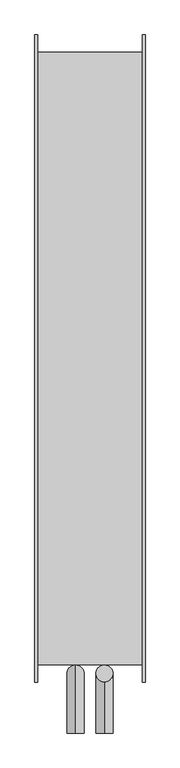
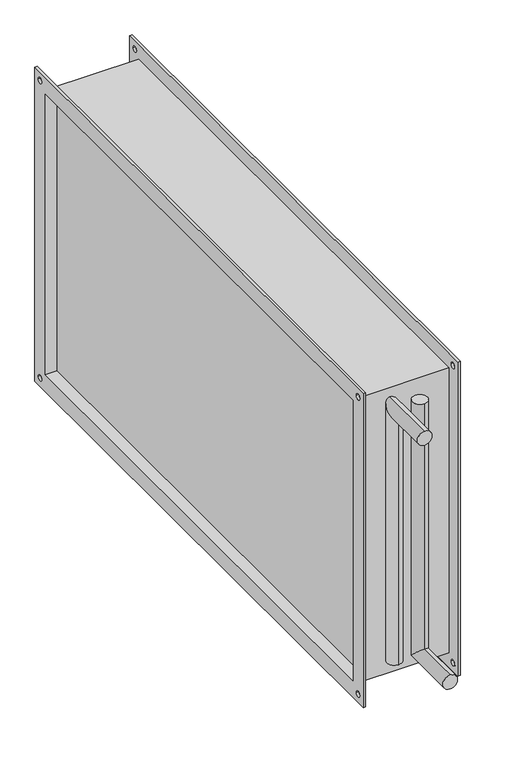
"""IFC4 building model written with IfcOpenShell, lengths in millimetres: proxy geometry, СВ_ВоздухонагревательВодяной_КанальныйПрямоугольный_200-1000_SPH-W : SPH-W-900x500/2."""

from ifc_helpers import new_model, si_unit, frame, origin, place, context, project, spatial, polyline, circle_curve, ellipse_curve, source, transform, mapped, element, save
from ifc_brep_helpers import plane_surface, cylinder_surface, revolved_surface, advanced_brep


def mechanical_equipment_1263eb8d(model_context):
    return source(origin(), model_context, "Body", "AdvancedBrep", [
        advanced_brep(
        [(21.5, -454.0, 225.0), (21.5, -479.0, 225.0), (21.5, -454.0, -237.5), (21.5, -479.0, -212.5), (21.5, -555.0, -237.5), (21.5, -555.0, -212.5)],
        [
            (0, 1, circle_curve(frame((21.5, -466.5, 225.0), z_axis=(0.0, 0.0, 1.0), x_axis=(0.0, -1.0, 0.0)), 12.5)),
            (1, 0, circle_curve(frame((21.5, -466.5, 225.0), z_axis=(0.0, 0.0, 1.0), x_axis=(0.0, -1.0, 0.0)), 12.5)),
            (0, 2),
            (2, 3, ellipse_curve(frame((21.5, -466.5, -225.0), z_axis=(0.0, 0.7071067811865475, 0.7071067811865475), x_axis=(0.0, -0.7071067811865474, 0.7071067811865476)), 17.6776695, 12.5)),
            (3, 1),
            (3, 2, ellipse_curve(frame((21.5, -466.5, -225.0), z_axis=(0.0, 0.7071067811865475, 0.7071067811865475), x_axis=(0.0, -0.7071067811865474, 0.7071067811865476)), 17.6776695, 12.5)),
            (4, 5, circle_curve(frame((21.5, -555.0, -225.0), z_axis=(0.0, -1.0, 0.0), x_axis=(0.0, 0.0, 1.0)), 12.5)),
            (5, 4, circle_curve(frame((21.5, -555.0, -225.0), z_axis=(0.0, -1.0, 0.0), x_axis=(0.0, 0.0, 1.0)), 12.5)),
            (2, 4),
            (5, 3),
        ],
        [
            plane_surface(frame((21.5, -466.5, 225.0), z_axis=(0.0, 0.0, 1.0), x_axis=(-1.0, 0.0, 0.0))),
            cylinder_surface(frame((21.5, -466.5, 225.0), z_axis=(0.0, 0.0, 1.0), x_axis=(0.0, -1.0, 0.0)), 12.5),
            plane_surface(frame((21.5, -555.0, -225.0), z_axis=(0.0, -1.0, 0.0), x_axis=(-1.0, 0.0, 0.0))),
            cylinder_surface(frame((21.5, -466.5, -225.0), z_axis=(0.0, 1.0, 0.0), x_axis=(0.0, 0.0, 1.0)), 12.5),
        ],
        [
            (0, [[1, 2]]),
            (1, [[-1, 3, 4, 5]]),
            (1, [[-2, -5, 6, -3]]),
            (2, [[7, 8]]),
            (3, [[-4, 9, -8, 10]]),
            (3, [[-6, -10, -7, -9]]),
        ],
    ),
        advanced_brep(
        [(-21.5, -454.0, -225.0), (-21.5, -479.0, -225.0), (-21.5, -454.0, 237.5), (-21.5, -479.0, 212.5), (-21.5, -555.0, 237.5), (-21.5, -555.0, 212.5)],
        [
            (0, 1, circle_curve(frame((-21.5, -466.5, -225.0), z_axis=(0.0, 0.0, -1.0), x_axis=(0.0, -1.0, 0.0)), 12.5)),
            (1, 0, circle_curve(frame((-21.5, -466.5, -225.0), z_axis=(0.0, 0.0, -1.0), x_axis=(0.0, -1.0, 0.0)), 12.5)),
            (0, 2),
            (2, 3, ellipse_curve(frame((-21.5, -466.5, 225.0), z_axis=(0.0, 0.7071067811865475, -0.7071067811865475), x_axis=(0.0, -0.7071067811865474, -0.7071067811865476)), 17.6776695, 12.5)),
            (3, 1),
            (3, 2, ellipse_curve(frame((-21.5, -466.5, 225.0), z_axis=(0.0, 0.7071067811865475, -0.7071067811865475), x_axis=(0.0, -0.7071067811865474, -0.7071067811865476)), 17.6776695, 12.5)),
            (4, 5, circle_curve(frame((-21.5, -555.0, 225.0), z_axis=(0.0, -1.0, 0.0), x_axis=(0.0, 0.0, -1.0)), 12.5)),
            (5, 4, circle_curve(frame((-21.5, -555.0, 225.0), z_axis=(0.0, -1.0, 0.0), x_axis=(0.0, 0.0, -1.0)), 12.5)),
            (2, 4),
            (5, 3),
        ],
        [
            plane_surface(frame((-21.5, -466.5, -225.0), z_axis=(0.0, 0.0, -1.0), x_axis=(1.0, 0.0, 0.0))),
            cylinder_surface(frame((-21.5, -466.5, -225.0), z_axis=(0.0, 0.0, -1.0), x_axis=(0.0, -1.0, 0.0)), 12.5),
            plane_surface(frame((-21.5, -555.0, 225.0), z_axis=(0.0, -1.0, 0.0), x_axis=(1.0, 0.0, 0.0))),
            cylinder_surface(frame((-21.5, -466.5, 225.0), z_axis=(0.0, 1.0, 0.0), x_axis=(0.0, 0.0, -1.0)), 12.5),
        ],
        [
            (0, [[1, 2]]),
            (1, [[-1, 3, 4, 5]]),
            (1, [[-2, -5, 6, -3]]),
            (2, [[7, 8]]),
            (3, [[-4, 9, -8, 10]]),
            (3, [[-6, -10, -7, -9]]),
        ],
    ),
        advanced_brep(
        [(-78.0, -454.0, 254.0), (-78.0, -454.0, -254.0), (78.0, -454.0, -254.0), (78.0, -454.0, 254.0), (-78.0, 454.0, -254.0), (78.0, 454.0, -254.0), (-78.0, 454.0, 254.0), (78.0, 454.0, 254.0), (62.0, 450.0, -250.0), (62.0, 450.0, 250.0), (62.0, -450.0, 250.0), (62.0, -450.0, -250.0), (-62.0, -450.0, 250.0), (-62.0, 450.0, 250.0), (-62.0, 450.0, -250.0), (-62.0, -450.0, -250.0), (-82.0, -480.0, 280.0), (-82.0, 480.0, 280.0), (-82.0, 480.0, -280.0), (-82.0, -480.0, -280.0), (-82.0, -450.0, 250.0), (-82.0, -450.0, -250.0), (-82.0, 450.0, -250.0), (-82.0, 450.0, 250.0), (-82.0, 460.0, 265.0), (-82.0, 470.0, 265.0), (-82.0, -470.0, 265.0), (-82.0, -460.0, 265.0), (-82.0, -470.0, -265.0), (-82.0, -460.0, -265.0), (-82.0, 460.0, -265.0), (-82.0, 470.0, -265.0), (-78.0, -480.0, 280.0), (-78.0, -480.0, -280.0), (-78.0, 480.0, -280.0), (-78.0, 480.0, 280.0), (-78.0, 470.0, 265.0), (-78.0, 460.0, 265.0), (-78.0, -460.0, 265.0), (-78.0, -470.0, 265.0), (-78.0, -460.0, -265.0), (-78.0, -470.0, -265.0), (-78.0, 470.0, -265.0), (-78.0, 460.0, -265.0), (78.0, 480.0, 280.0), (78.0, 480.0, -280.0), (78.0, -480.0, -280.0), (78.0, -480.0, 280.0), (78.0, 460.0, 265.0), (78.0, 470.0, 265.0), (78.0, -470.0, 265.0), (78.0, -460.0, 265.0), (78.0, -470.0, -265.0), (78.0, -460.0, -265.0), (78.0, 460.0, -265.0), (78.0, 470.0, -265.0), (82.0, 480.0, 280.0), (82.0, -480.0, 280.0), (82.0, -480.0, -280.0), (82.0, 480.0, -280.0), (82.0, 450.0, 250.0), (82.0, 450.0, -250.0), (82.0, -450.0, -250.0), (82.0, -450.0, 250.0), (82.0, 470.0, 265.0), (82.0, 460.0, 265.0), (82.0, -460.0, 265.0), (82.0, -470.0, 265.0), (82.0, -460.0, -265.0), (82.0, -470.0, -265.0), (82.0, 470.0, -265.0), (82.0, 460.0, -265.0)],
        [
            (0, 1),
            (1, 2),
            (2, 3),
            (3, 0),
            (1, 4),
            (4, 5),
            (5, 2),
            (4, 6),
            (6, 7),
            (7, 5),
            (6, 0),
            (3, 7),
            (8, 9),
            (9, 10),
            (10, 11),
            (11, 8),
            (12, 13),
            (13, 14),
            (14, 15),
            (15, 12),
            (16, 17),
            (17, 18),
            (18, 19),
            (19, 16),
            (20, 21),
            (21, 22),
            (22, 23),
            (23, 20),
            (24, 25, circle_curve(frame((-82.0, 465.0, 265.0), z_axis=(1.0, 0.0, 0.0), x_axis=(0.0, -1.0, 0.0)), 5.0)),
            (25, 24, circle_curve(frame((-82.0, 465.0, 265.0), z_axis=(1.0, 0.0, 0.0), x_axis=(0.0, -1.0, 0.0)), 5.0)),
            (26, 27, circle_curve(frame((-82.0, -465.0, 265.0), z_axis=(1.0, 0.0, 0.0), x_axis=(0.0, -1.0, 0.0)), 5.0)),
            (27, 26, circle_curve(frame((-82.0, -465.0, 265.0), z_axis=(1.0, 0.0, 0.0), x_axis=(0.0, -1.0, 0.0)), 5.0)),
            (28, 29, circle_curve(frame((-82.0, -465.0, -265.0), z_axis=(1.0, 0.0, 0.0), x_axis=(0.0, -1.0, 0.0)), 5.0)),
            (29, 28, circle_curve(frame((-82.0, -465.0, -265.0), z_axis=(1.0, 0.0, 0.0), x_axis=(0.0, -1.0, 0.0)), 5.0)),
            (30, 31, circle_curve(frame((-82.0, 465.0, -265.0), z_axis=(1.0, 0.0, 0.0), x_axis=(0.0, -1.0, 0.0)), 5.0)),
            (31, 30, circle_curve(frame((-82.0, 465.0, -265.0), z_axis=(1.0, 0.0, 0.0), x_axis=(0.0, -1.0, 0.0)), 5.0)),
            (32, 33),
            (33, 34),
            (34, 35),
            (35, 32),
            (36, 37, circle_curve(frame((-78.0, 465.0, 265.0), z_axis=(-1.0, 0.0, 0.0), x_axis=(0.0, -1.0, 0.0)), 5.0)),
            (37, 36, circle_curve(frame((-78.0, 465.0, 265.0), z_axis=(-1.0, 0.0, 0.0), x_axis=(0.0, -1.0, 0.0)), 5.0)),
            (38, 39, circle_curve(frame((-78.0, -465.0, 265.0), z_axis=(-1.0, 0.0, 0.0), x_axis=(0.0, -1.0, 0.0)), 5.0)),
            (39, 38, circle_curve(frame((-78.0, -465.0, 265.0), z_axis=(-1.0, 0.0, 0.0), x_axis=(0.0, -1.0, 0.0)), 5.0)),
            (40, 41, circle_curve(frame((-78.0, -465.0, -265.0), z_axis=(-1.0, 0.0, 0.0), x_axis=(0.0, -1.0, 0.0)), 5.0)),
            (41, 40, circle_curve(frame((-78.0, -465.0, -265.0), z_axis=(-1.0, 0.0, 0.0), x_axis=(0.0, -1.0, 0.0)), 5.0)),
            (42, 43, circle_curve(frame((-78.0, 465.0, -265.0), z_axis=(-1.0, 0.0, 0.0), x_axis=(0.0, -1.0, 0.0)), 5.0)),
            (43, 42, circle_curve(frame((-78.0, 465.0, -265.0), z_axis=(-1.0, 0.0, 0.0), x_axis=(0.0, -1.0, 0.0)), 5.0)),
            (19, 33),
            (32, 16),
            (18, 34),
            (17, 35),
            (44, 45),
            (45, 46),
            (46, 47),
            (47, 44),
            (48, 49, circle_curve(frame((78.0, 465.0, 265.0), z_axis=(1.0, 0.0, 0.0), x_axis=(0.0, -1.0, 0.0)), 5.0)),
            (49, 48, circle_curve(frame((78.0, 465.0, 265.0), z_axis=(1.0, 0.0, 0.0), x_axis=(0.0, -1.0, 0.0)), 5.0)),
            (50, 51, circle_curve(frame((78.0, -465.0, 265.0), z_axis=(1.0, 0.0, 0.0), x_axis=(0.0, -1.0, 0.0)), 5.0)),
            (51, 50, circle_curve(frame((78.0, -465.0, 265.0), z_axis=(1.0, 0.0, 0.0), x_axis=(0.0, -1.0, 0.0)), 5.0)),
            (52, 53, circle_curve(frame((78.0, -465.0, -265.0), z_axis=(1.0, 0.0, 0.0), x_axis=(0.0, -1.0, 0.0)), 5.0)),
            (53, 52, circle_curve(frame((78.0, -465.0, -265.0), z_axis=(1.0, 0.0, 0.0), x_axis=(0.0, -1.0, 0.0)), 5.0)),
            (54, 55, circle_curve(frame((78.0, 465.0, -265.0), z_axis=(1.0, 0.0, 0.0), x_axis=(0.0, -1.0, 0.0)), 5.0)),
            (55, 54, circle_curve(frame((78.0, 465.0, -265.0), z_axis=(1.0, 0.0, 0.0), x_axis=(0.0, -1.0, 0.0)), 5.0)),
            (56, 57),
            (57, 58),
            (58, 59),
            (59, 56),
            (60, 61),
            (61, 62),
            (62, 63),
            (63, 60),
            (64, 65, circle_curve(frame((82.0, 465.0, 265.0), z_axis=(-1.0, 0.0, 0.0), x_axis=(0.0, -1.0, 0.0)), 5.0)),
            (65, 64, circle_curve(frame((82.0, 465.0, 265.0), z_axis=(-1.0, 0.0, 0.0), x_axis=(0.0, -1.0, 0.0)), 5.0)),
            (66, 67, circle_curve(frame((82.0, -465.0, 265.0), z_axis=(-1.0, 0.0, 0.0), x_axis=(0.0, -1.0, 0.0)), 5.0)),
            (67, 66, circle_curve(frame((82.0, -465.0, 265.0), z_axis=(-1.0, 0.0, 0.0), x_axis=(0.0, -1.0, 0.0)), 5.0)),
            (68, 69, circle_curve(frame((82.0, -465.0, -265.0), z_axis=(-1.0, 0.0, 0.0), x_axis=(0.0, -1.0, 0.0)), 5.0)),
            (69, 68, circle_curve(frame((82.0, -465.0, -265.0), z_axis=(-1.0, 0.0, 0.0), x_axis=(0.0, -1.0, 0.0)), 5.0)),
            (70, 71, circle_curve(frame((82.0, 465.0, -265.0), z_axis=(-1.0, 0.0, 0.0), x_axis=(0.0, -1.0, 0.0)), 5.0)),
            (71, 70, circle_curve(frame((82.0, 465.0, -265.0), z_axis=(-1.0, 0.0, 0.0), x_axis=(0.0, -1.0, 0.0)), 5.0)),
            (47, 57),
            (56, 44),
            (46, 58),
            (45, 59),
            (23, 13),
            (12, 20),
            (22, 14),
            (21, 15),
            (60, 9),
            (8, 61),
            (11, 62),
            (10, 63),
            (36, 25),
            (24, 37),
            (64, 49),
            (48, 65),
            (38, 27),
            (26, 39),
            (66, 51),
            (50, 67),
            (40, 29),
            (28, 41),
            (68, 53),
            (52, 69),
            (42, 31),
            (30, 43),
            (70, 55),
            (54, 71),
        ],
        [
            plane_surface(frame((-62.0, -454.0, 254.0), z_axis=(0.0, -1.0, 0.0), x_axis=(-1.0, 0.0, 0.0))),
            plane_surface(frame((-62.0, -454.0, -254.0), z_axis=(0.0, 0.0, -1.0), x_axis=(-1.0, 0.0, 0.0))),
            plane_surface(frame((-62.0, 454.0, -254.0), z_axis=(0.0, 1.0, 0.0), x_axis=(-1.0, 0.0, 0.0))),
            plane_surface(frame((-62.0, 454.0, 254.0), z_axis=(0.0, 0.0, 1.0), x_axis=(-1.0, 0.0, 0.0))),
            plane_surface(frame((62.0, -454.0, 254.0), z_axis=(1.0, 0.0, 0.0), x_axis=(0.0, 0.0, -1.0))),
            plane_surface(frame((-62.0, -454.0, 254.0), z_axis=(-1.0, 0.0, 0.0), x_axis=(0.0, 0.0, 1.0))),
            plane_surface(frame((-82.0, -480.0, 280.0), z_axis=(-1.0, 0.0, 0.0), x_axis=(0.0, 0.0, 1.0))),
            plane_surface(frame((-78.0, -480.0, 280.0), z_axis=(1.0, 0.0, 0.0), x_axis=(0.0, 0.0, -1.0))),
            plane_surface(frame((-78.0, -480.0, 280.0), z_axis=(0.0, -1.0, 0.0), x_axis=(-1.0, 0.0, 0.0))),
            plane_surface(frame((-78.0, -480.0, -280.0), z_axis=(0.0, 0.0, -1.0), x_axis=(-1.0, 0.0, 0.0))),
            plane_surface(frame((-78.0, 480.0, -280.0), z_axis=(0.0, 1.0, 0.0), x_axis=(-1.0, 0.0, 0.0))),
            plane_surface(frame((-78.0, 480.0, 280.0), z_axis=(0.0, 0.0, 1.0), x_axis=(-1.0, 0.0, 0.0))),
            plane_surface(frame((78.0, 450.0, -250.0), z_axis=(-1.0, 0.0, 0.0), x_axis=(0.0, 0.0, 1.0))),
            plane_surface(frame((82.0, 450.0, -250.0), z_axis=(1.0, 0.0, 0.0), x_axis=(0.0, 0.0, -1.0))),
            plane_surface(frame((82.0, 480.0, 280.0), z_axis=(0.0, 0.0, 1.0), x_axis=(-1.0, 0.0, 0.0))),
            plane_surface(frame((82.0, -480.0, 280.0), z_axis=(0.0, -1.0, 0.0), x_axis=(-1.0, 0.0, 0.0))),
            plane_surface(frame((82.0, -480.0, -280.0), z_axis=(0.0, 0.0, -1.0), x_axis=(-1.0, 0.0, 0.0))),
            plane_surface(frame((82.0, 480.0, -280.0), z_axis=(0.0, 1.0, 0.0), x_axis=(-1.0, 0.0, 0.0))),
            plane_surface(frame((-78.0, -450.0, 250.0), z_axis=(0.0, 0.0, -1.0), x_axis=(-1.0, 0.0, 0.0))),
            plane_surface(frame((-78.0, 450.0, 250.0), z_axis=(0.0, -1.0, 0.0), x_axis=(-1.0, 0.0, 0.0))),
            plane_surface(frame((-78.0, 450.0, -250.0), z_axis=(0.0, 0.0, 1.0), x_axis=(-1.0, 0.0, 0.0))),
            plane_surface(frame((-78.0, -450.0, -250.0), z_axis=(0.0, 1.0, 0.0), x_axis=(-1.0, 0.0, 0.0))),
            plane_surface(frame((82.0, 450.0, 250.0), z_axis=(0.0, -1.0, 0.0), x_axis=(-1.0, 0.0, 0.0))),
            plane_surface(frame((82.0, 450.0, -250.0), z_axis=(0.0, 0.0, 1.0), x_axis=(-1.0, 0.0, 0.0))),
            plane_surface(frame((82.0, -450.0, -250.0), z_axis=(0.0, 1.0, 0.0), x_axis=(-1.0, 0.0, 0.0))),
            plane_surface(frame((82.0, -450.0, 250.0), z_axis=(0.0, 0.0, -1.0), x_axis=(-1.0, 0.0, 0.0))),
            revolved_surface(polyline([(-82.0, 460.0, 265.0), (-78.0, 460.0, 265.0)]), (82.0, 465.0, 265.0), (-1.0, 0.0, 0.0)),
            revolved_surface(polyline([(78.0, 460.0, 265.0), (82.0, 460.0, 265.0)]), (82.0, 465.0, 265.0), (-1.0, 0.0, 0.0)),
            revolved_surface(polyline([(-82.0, -470.0, 265.0), (-78.0, -470.0, 265.0)]), (21.5, -465.0, 265.0), (-1.0, 0.0, 0.0)),
            revolved_surface(polyline([(78.0, -470.0, 265.0), (82.0, -470.0, 265.0)]), (21.5, -465.0, 265.0), (-1.0, 0.0, 0.0)),
            revolved_surface(polyline([(-82.0, -470.0, -265.0), (-78.0, -470.0, -265.0)]), (21.5, -465.0, -265.0), (-1.0, 0.0, 0.0)),
            revolved_surface(polyline([(78.0, -470.0, -265.0), (82.0, -470.0, -265.0)]), (21.5, -465.0, -265.0), (-1.0, 0.0, 0.0)),
            revolved_surface(polyline([(-82.0, 460.0, -265.0), (-78.0, 460.0, -265.0)]), (21.5, 465.0, -265.0), (-1.0, 0.0, 0.0)),
            revolved_surface(polyline([(78.0, 460.0, -265.0), (82.0, 460.0, -265.0)]), (21.5, 465.0, -265.0), (-1.0, 0.0, 0.0)),
        ],
        [
            (0, [[1, 2, 3, 4]]),
            (1, [[-2, 5, 6, 7]]),
            (2, [[-6, 8, 9, 10]]),
            (3, [[-9, 11, -4, 12]]),
            (4, [[13, 14, 15, 16]]),
            (5, [[17, 18, 19, 20]]),
            (6, [[21, 22, 23, 24], [25, 26, 27, 28], [29, 30], [31, 32], [33, 34], [35, 36]]),
            (7, [[37, 38, 39, 40], [-1, -11, -8, -5], [41, 42], [43, 44], [45, 46], [47, 48]]),
            (8, [[-24, 49, -37, 50]]),
            (9, [[-23, 51, -38, -49]]),
            (10, [[-22, 52, -39, -51]]),
            (11, [[-21, -50, -40, -52]]),
            (12, [[53, 54, 55, 56], [-3, -7, -10, -12], [57, 58], [59, 60], [61, 62], [63, 64]]),
            (13, [[65, 66, 67, 68], [69, 70, 71, 72], [73, 74], [75, 76], [77, 78], [79, 80]]),
            (14, [[-56, 81, -65, 82]]),
            (15, [[-55, 83, -66, -81]]),
            (16, [[-54, 84, -67, -83]]),
            (17, [[-53, -82, -68, -84]]),
            (18, [[-28, 85, -17, 86]]),
            (19, [[-27, 87, -18, -85]]),
            (20, [[-26, 88, -19, -87]]),
            (21, [[-25, -86, -20, -88]]),
            (22, [[-69, 89, -13, 90]]),
            (23, [[-70, -90, -16, 91]]),
            (24, [[-71, -91, -15, 92]]),
            (25, [[-89, -72, -92, -14]]),
            (26, [[93, -29, 94, -41]]),
            (27, [[95, -57, 96, -73]]),
            (26, [[-93, -42, -94, -30]]),
            (27, [[-95, -74, -96, -58]]),
            (28, [[97, -31, 98, -43]]),
            (29, [[99, -59, 100, -75]]),
            (28, [[-97, -44, -98, -32]]),
            (29, [[-99, -76, -100, -60]]),
            (30, [[101, -33, 102, -45]]),
            (31, [[103, -61, 104, -77]]),
            (30, [[-101, -46, -102, -34]]),
            (31, [[-103, -78, -104, -62]]),
            (32, [[105, -35, 106, -47]]),
            (33, [[107, -63, 108, -79]]),
            (32, [[-105, -48, -106, -36]]),
            (33, [[-107, -80, -108, -64]]),
        ],
    ),
    ])


if __name__ == "__main__":
    model = new_model("IFC4")
    model_context = context("Model", 3, world=origin())
    ifc_project = project(units=[si_unit("LENGTHUNIT", "METRE", prefix="MILLI")], contexts=[model_context])
    site = spatial("IfcSite", under=ifc_project)
    building = spatial("IfcBuilding", under=site)
    placement = place(None, origin())
    mechanical_equipment_shape = mechanical_equipment_1263eb8d(model_context)
    element("IfcBuildingElementProxy", 1, Name="СВ_ВоздухонагревательВодяной_КанальныйПрямоугольный_200-1000_SPH-W : SPH-W-900x500/2", ObjectType="СВ_ВоздухонагревательВодяной_КанальныйПрямоугольный_200-1000_SPH-W : SPH-W-900x500/2", at=placement, inside=building, context=model_context, shape_type="MappedRepresentation", body=[
        mapped(mechanical_equipment_shape, transform((0.0, 0.0, 0.0), x_axis=(1.0, 0.0, 0.0), y_axis=(0.0, 1.0, 0.0), z_axis=(0.0, 0.0, 1.0))),
    ])
    save(model, "model.ifc")
